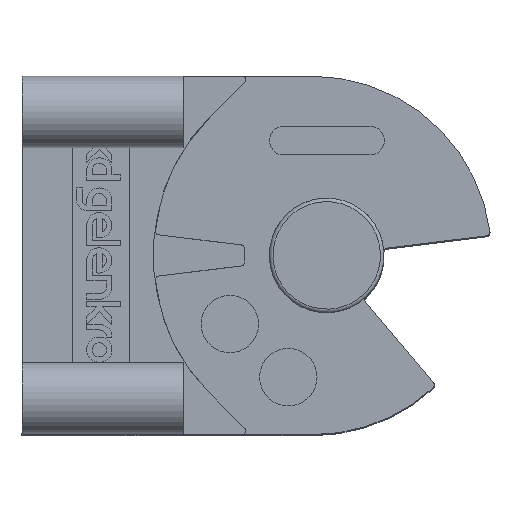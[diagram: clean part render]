
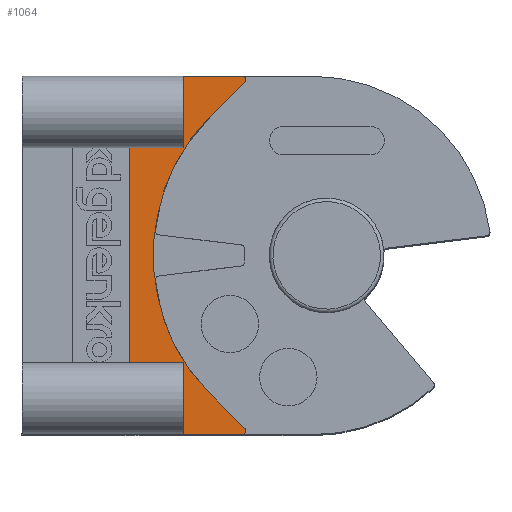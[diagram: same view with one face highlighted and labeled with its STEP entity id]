
A CAD part, top view. The second image highlights one B-rep face of the part: STEP entity #1064.
In plain terms, the highlighted planar face has unit normal (0, 0, 1).
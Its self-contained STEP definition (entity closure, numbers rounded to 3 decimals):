
#187=CARTESIAN_POINT('',(211.611,130.46,8.0));
#188=VERTEX_POINT('',#187);
#440=CARTESIAN_POINT('',(219.111,130.46,8.));
#441=VERTEX_POINT('',#440);
#448=CARTESIAN_POINT('',(211.611,130.46,8.0));
#449=DIRECTION('',(1.0,0.0,0.0));
#450=VECTOR('',#449,7.5);
#451=LINE('',#448,#450);
#452=EDGE_CURVE('',#188,#441,#451,.T.);
#479=CARTESIAN_POINT('',(219.111,120.46,8.0));
#480=VERTEX_POINT('',#479);
#487=CARTESIAN_POINT('',(219.111,130.46,8.));
#488=DIRECTION('',(0.0,-1.0,0.0));
#489=VECTOR('',#488,10.);
#490=LINE('',#487,#489);
#491=EDGE_CURVE('',#441,#480,#490,.T.);
#758=CARTESIAN_POINT('',(211.611,160.46,8.0));
#759=VERTEX_POINT('',#758);
#808=CARTESIAN_POINT('',(219.111,160.46,8.));
#809=VERTEX_POINT('',#808);
#848=CARTESIAN_POINT('',(219.111,160.46,8.));
#849=DIRECTION('',(-1.0,0.0,0.0));
#850=VECTOR('',#849,7.5);
#851=LINE('',#848,#850);
#852=EDGE_CURVE('',#809,#759,#851,.T.);
#896=CARTESIAN_POINT('',(219.111,170.46,8.0));
#897=VERTEX_POINT('',#896);
#898=CARTESIAN_POINT('',(219.111,170.46,8.0));
#899=DIRECTION('',(0.0,-1.0,0.0));
#900=VECTOR('',#899,10.);
#901=LINE('',#898,#900);
#902=EDGE_CURVE('',#897,#809,#901,.T.);
#972=CARTESIAN_POINT('',(213.354,145.466,8.0));
#973=DIRECTION('',(0.0,0.0,1.0));
#974=DIRECTION('',(1.0,0.0,0.0));
#975=AXIS2_PLACEMENT_3D('',#972,#973,#974);
#976=PLANE('',#975);
#977=ORIENTED_EDGE('',*,*,#491,.T.);
#978=CARTESIAN_POINT('',(227.341,120.46,8.0));
#979=VERTEX_POINT('',#978);
#980=CARTESIAN_POINT('',(227.341,120.46,8.0));
#981=DIRECTION('',(-1.0,0.0,0.0));
#982=VECTOR('',#981,8.23);
#983=LINE('',#980,#982);
#984=EDGE_CURVE('',#979,#480,#983,.T.);
#985=ORIENTED_EDGE('',*,*,#984,.F.);
#986=CARTESIAN_POINT('',(227.695,121.314,8.0));
#987=VERTEX_POINT('',#986);
#988=CARTESIAN_POINT('',(227.341,120.96,8.0));
#989=DIRECTION('',(0.0,0.0,1.0));
#990=DIRECTION('',(0.0,1.0,0.0));
#991=AXIS2_PLACEMENT_3D('',#988,#989,#990);
#992=CIRCLE('',#991,0.5);
#993=EDGE_CURVE('',#979,#987,#992,.T.);
#994=ORIENTED_EDGE('',*,*,#993,.T.);
#995=CARTESIAN_POINT('',(222.579,126.429,8.0));
#996=VERTEX_POINT('',#995);
#997=CARTESIAN_POINT('',(227.695,121.314,8.0));
#998=DIRECTION('',(-0.707,0.707,0.0));
#999=VECTOR('',#998,7.234);
#1000=LINE('',#997,#999);
#1001=EDGE_CURVE('',#987,#996,#1000,.T.);
#1002=ORIENTED_EDGE('',*,*,#1001,.T.);
#1003=CARTESIAN_POINT('',(215.518,139.92,8.0));
#1004=VERTEX_POINT('',#1003);
#1005=CARTESIAN_POINT('',(240.611,144.46,8.0));
#1006=DIRECTION('',(0.0,0.0,-1.0));
#1007=DIRECTION('',(-1.0,0.,0.0));
#1008=AXIS2_PLACEMENT_3D('',#1005,#1006,#1007);
#1009=CIRCLE('',#1008,25.5);
#1010=EDGE_CURVE('',#996,#1004,#1009,.T.);
#1011=ORIENTED_EDGE('',*,*,#1010,.T.);
#1012=CARTESIAN_POINT('',(215.518,151.,8.0));
#1013=VERTEX_POINT('',#1012);
#1014=CARTESIAN_POINT('',(239.111,145.46,8.0));
#1015=DIRECTION('',(0.0,0.0,-1.0));
#1016=DIRECTION('',(-0.974,0.229,0.0));
#1017=AXIS2_PLACEMENT_3D('',#1014,#1015,#1016);
#1018=CIRCLE('',#1017,24.234);
#1019=EDGE_CURVE('',#1004,#1013,#1018,.T.);
#1020=ORIENTED_EDGE('',*,*,#1019,.T.);
#1021=CARTESIAN_POINT('',(222.579,164.491,8.0));
#1022=VERTEX_POINT('',#1021);
#1023=CARTESIAN_POINT('',(240.611,146.46,8.0));
#1024=DIRECTION('',(0.0,0.0,-1.0));
#1025=DIRECTION('',(-0.707,0.707,0.0));
#1026=AXIS2_PLACEMENT_3D('',#1023,#1024,#1025);
#1027=CIRCLE('',#1026,25.5);
#1028=EDGE_CURVE('',#1013,#1022,#1027,.T.);
#1029=ORIENTED_EDGE('',*,*,#1028,.T.);
#1030=CARTESIAN_POINT('',(227.695,169.607,8.0));
#1031=VERTEX_POINT('',#1030);
#1032=CARTESIAN_POINT('',(222.579,164.491,8.0));
#1033=DIRECTION('',(0.707,0.707,0.0));
#1034=VECTOR('',#1033,7.234);
#1035=LINE('',#1032,#1034);
#1036=EDGE_CURVE('',#1022,#1031,#1035,.T.);
#1037=ORIENTED_EDGE('',*,*,#1036,.T.);
#1038=CARTESIAN_POINT('',(227.341,170.46,8.0));
#1039=VERTEX_POINT('',#1038);
#1040=CARTESIAN_POINT('',(227.341,169.96,8.0));
#1041=DIRECTION('',(0.0,0.0,1.));
#1042=DIRECTION('',(-0.707,0.707,0.0));
#1043=AXIS2_PLACEMENT_3D('',#1040,#1041,#1042);
#1044=CIRCLE('',#1043,0.5);
#1045=EDGE_CURVE('',#1031,#1039,#1044,.T.);
#1046=ORIENTED_EDGE('',*,*,#1045,.T.);
#1047=CARTESIAN_POINT('',(219.111,170.46,8.0));
#1048=DIRECTION('',(1.0,0.0,0.0));
#1049=VECTOR('',#1048,8.23);
#1050=LINE('',#1047,#1049);
#1051=EDGE_CURVE('',#897,#1039,#1050,.T.);
#1052=ORIENTED_EDGE('',*,*,#1051,.F.);
#1053=ORIENTED_EDGE('',*,*,#902,.T.);
#1054=ORIENTED_EDGE('',*,*,#852,.T.);
#1055=CARTESIAN_POINT('',(211.611,160.46,8.0));
#1056=DIRECTION('',(0.0,-1.0,0.0));
#1057=VECTOR('',#1056,30.);
#1058=LINE('',#1055,#1057);
#1059=EDGE_CURVE('',#759,#188,#1058,.T.);
#1060=ORIENTED_EDGE('',*,*,#1059,.T.);
#1061=ORIENTED_EDGE('',*,*,#452,.T.);
#1062=EDGE_LOOP('',(#977,#985,#994,#1002,#1011,#1020,#1029,#1037,#1046,#1052,#1053,#1054,#1060,#1061));
#1063=FACE_OUTER_BOUND('',#1062,.T.);
#1064=ADVANCED_FACE('',(#1063),#976,.T.);
